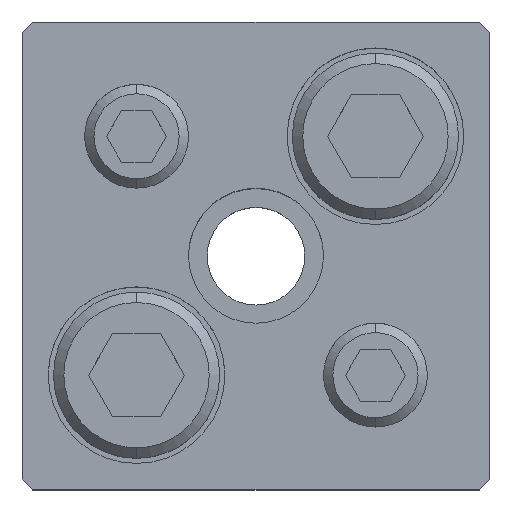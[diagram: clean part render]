
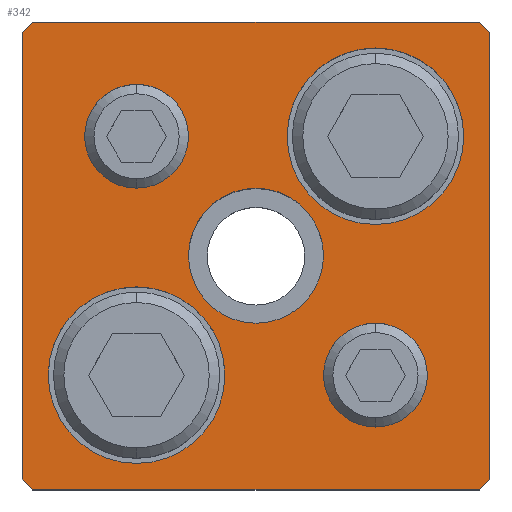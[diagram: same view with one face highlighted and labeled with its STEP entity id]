
A CAD part, top view. The second image highlights one B-rep face of the part: STEP entity #342.
In plain terms, the highlighted planar face has unit normal (0, 0, 1).
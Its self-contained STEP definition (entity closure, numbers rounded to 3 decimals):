
#167=PLANE('',#2883);
#246=FACE_BOUND('',#713,.T.);
#247=FACE_BOUND('',#714,.T.);
#248=FACE_BOUND('',#715,.T.);
#249=FACE_BOUND('',#716,.T.);
#250=FACE_BOUND('',#717,.T.);
#251=FACE_BOUND('',#718,.T.);
#342=ADVANCED_FACE('',(#246,#247,#248,#249,#250,#251),#167,.T.);
#713=EDGE_LOOP('',(#1569,#1570,#1571,#1572,#1573,#1574,#1575,#1576));
#714=EDGE_LOOP('',(#1577,#1578));
#715=EDGE_LOOP('',(#1579,#1580));
#716=EDGE_LOOP('',(#1581,#1582));
#717=EDGE_LOOP('',(#1583,#1584));
#718=EDGE_LOOP('',(#1585,#1586));
#898=LINE('',#4227,#1118);
#899=LINE('',#4230,#1119);
#900=LINE('',#4232,#1120);
#901=LINE('',#4234,#1121);
#902=LINE('',#4236,#1122);
#903=LINE('',#4238,#1123);
#904=LINE('',#4240,#1124);
#905=LINE('',#4242,#1125);
#1118=VECTOR('',#3401,1.);
#1119=VECTOR('',#3402,1.);
#1120=VECTOR('',#3403,1.);
#1121=VECTOR('',#3404,1.);
#1122=VECTOR('',#3405,1.);
#1123=VECTOR('',#3406,1.);
#1124=VECTOR('',#3407,1.);
#1125=VECTOR('',#3408,1.);
#1569=ORIENTED_EDGE('',*,*,#2390,.T.);
#1570=ORIENTED_EDGE('',*,*,#2391,.T.);
#1571=ORIENTED_EDGE('',*,*,#2392,.T.);
#1572=ORIENTED_EDGE('',*,*,#2393,.T.);
#1573=ORIENTED_EDGE('',*,*,#2394,.T.);
#1574=ORIENTED_EDGE('',*,*,#2395,.T.);
#1575=ORIENTED_EDGE('',*,*,#2396,.T.);
#1576=ORIENTED_EDGE('',*,*,#2397,.T.);
#1577=ORIENTED_EDGE('',*,*,#2398,.F.);
#1578=ORIENTED_EDGE('',*,*,#2399,.F.);
#1579=ORIENTED_EDGE('',*,*,#2400,.F.);
#1580=ORIENTED_EDGE('',*,*,#2401,.F.);
#1581=ORIENTED_EDGE('',*,*,#2376,.F.);
#1582=ORIENTED_EDGE('',*,*,#2372,.F.);
#1583=ORIENTED_EDGE('',*,*,#2370,.F.);
#1584=ORIENTED_EDGE('',*,*,#2366,.F.);
#1585=ORIENTED_EDGE('',*,*,#2402,.T.);
#1586=ORIENTED_EDGE('',*,*,#2403,.T.);
#2083=VERTEX_POINT('',#4178);
#2084=VERTEX_POINT('',#4179);
#2087=VERTEX_POINT('',#4191);
#2088=VERTEX_POINT('',#4192);
#2099=VERTEX_POINT('',#4228);
#2100=VERTEX_POINT('',#4229);
#2101=VERTEX_POINT('',#4231);
#2102=VERTEX_POINT('',#4233);
#2103=VERTEX_POINT('',#4235);
#2104=VERTEX_POINT('',#4237);
#2105=VERTEX_POINT('',#4239);
#2106=VERTEX_POINT('',#4241);
#2107=VERTEX_POINT('',#4244);
#2108=VERTEX_POINT('',#4245);
#2109=VERTEX_POINT('',#4248);
#2110=VERTEX_POINT('',#4249);
#2111=VERTEX_POINT('',#4252);
#2112=VERTEX_POINT('',#4253);
#2366=EDGE_CURVE('',#2083,#2084,#2655,.T.);
#2370=EDGE_CURVE('',#2084,#2083,#2657,.T.);
#2372=EDGE_CURVE('',#2087,#2088,#2659,.T.);
#2376=EDGE_CURVE('',#2088,#2087,#2661,.T.);
#2390=EDGE_CURVE('',#2099,#2100,#898,.T.);
#2391=EDGE_CURVE('',#2100,#2101,#899,.T.);
#2392=EDGE_CURVE('',#2101,#2102,#900,.T.);
#2393=EDGE_CURVE('',#2102,#2103,#901,.T.);
#2394=EDGE_CURVE('',#2103,#2104,#902,.T.);
#2395=EDGE_CURVE('',#2104,#2105,#903,.T.);
#2396=EDGE_CURVE('',#2105,#2106,#904,.T.);
#2397=EDGE_CURVE('',#2106,#2099,#905,.T.);
#2398=EDGE_CURVE('',#2107,#2108,#2671,.T.);
#2399=EDGE_CURVE('',#2108,#2107,#2672,.T.);
#2400=EDGE_CURVE('',#2109,#2110,#2673,.T.);
#2401=EDGE_CURVE('',#2110,#2109,#2674,.T.);
#2402=EDGE_CURVE('',#2111,#2112,#2675,.T.);
#2403=EDGE_CURVE('',#2112,#2111,#2676,.T.);
#2655=CIRCLE('',#2851,5.);
#2657=CIRCLE('',#2854,5.);
#2659=CIRCLE('',#2858,5.);
#2661=CIRCLE('',#2861,5.);
#2671=CIRCLE('',#2877,8.5);
#2672=CIRCLE('',#2878,8.5);
#2673=CIRCLE('',#2879,8.5);
#2674=CIRCLE('',#2880,8.5);
#2675=CIRCLE('',#2881,6.5);
#2676=CIRCLE('',#2882,6.5);
#2851=AXIS2_PLACEMENT_3D('',#4177,#3341,#3342);
#2854=AXIS2_PLACEMENT_3D('',#4186,#3349,#3350);
#2858=AXIS2_PLACEMENT_3D('',#4190,#3357,#3358);
#2861=AXIS2_PLACEMENT_3D('',#4199,#3365,#3366);
#2877=AXIS2_PLACEMENT_3D('',#4243,#3409,#3410);
#2878=AXIS2_PLACEMENT_3D('',#4246,#3411,#3412);
#2879=AXIS2_PLACEMENT_3D('',#4247,#3413,#3414);
#2880=AXIS2_PLACEMENT_3D('',#4250,#3415,#3416);
#2881=AXIS2_PLACEMENT_3D('',#4251,#3417,#3418);
#2882=AXIS2_PLACEMENT_3D('',#4254,#3419,#3420);
#2883=AXIS2_PLACEMENT_3D('',#4255,#3421,#3422);
#3341=DIRECTION('',(0.,0.,1.));
#3342=DIRECTION('',(-1.,0.,0.));
#3349=DIRECTION('',(0.,0.,1.));
#3350=DIRECTION('',(1.,0.,0.));
#3357=DIRECTION('',(0.,0.,1.));
#3358=DIRECTION('',(-1.,0.,0.));
#3365=DIRECTION('',(0.,0.,1.));
#3366=DIRECTION('',(1.,0.,0.));
#3401=DIRECTION('',(0.707,0.707,0.));
#3402=DIRECTION('',(0.,1.,0.));
#3403=DIRECTION('',(-0.707,0.707,0.));
#3404=DIRECTION('',(-1.,0.,0.));
#3405=DIRECTION('',(-0.707,-0.707,0.));
#3406=DIRECTION('',(0.,-1.,0.));
#3407=DIRECTION('',(0.707,-0.707,0.));
#3408=DIRECTION('',(1.,0.,0.));
#3409=DIRECTION('',(0.,0.,1.));
#3410=DIRECTION('',(1.,0.,0.));
#3411=DIRECTION('',(0.,0.,1.));
#3412=DIRECTION('',(-1.,0.,0.));
#3413=DIRECTION('',(0.,0.,1.));
#3414=DIRECTION('',(1.,0.,0.));
#3415=DIRECTION('',(0.,0.,1.));
#3416=DIRECTION('',(-1.,0.,0.));
#3417=DIRECTION('',(0.,0.,-1.));
#3418=DIRECTION('',(-1.,0.,0.));
#3419=DIRECTION('',(0.,0.,-1.));
#3420=DIRECTION('',(1.,0.,0.));
#3421=DIRECTION('',(0.,0.,1.));
#3422=DIRECTION('',(-1.,0.,0.));
#4177=CARTESIAN_POINT('',(11.5,-11.5,35.));
#4178=CARTESIAN_POINT('',(11.5,-16.5,35.));
#4179=CARTESIAN_POINT('',(11.5,-6.5,35.));
#4186=CARTESIAN_POINT('',(11.5,-11.5,35.));
#4190=CARTESIAN_POINT('',(-11.5,11.5,35.));
#4191=CARTESIAN_POINT('',(-11.5,6.5,35.));
#4192=CARTESIAN_POINT('',(-11.5,16.5,35.));
#4199=CARTESIAN_POINT('',(-11.5,11.5,35.));
#4227=CARTESIAN_POINT('',(21.5,-22.5,35.));
#4228=CARTESIAN_POINT('',(21.5,-22.5,35.));
#4229=CARTESIAN_POINT('',(22.5,-21.5,35.));
#4230=CARTESIAN_POINT('',(22.5,21.5,35.));
#4231=CARTESIAN_POINT('',(22.5,21.5,35.));
#4232=CARTESIAN_POINT('',(22.5,21.5,35.));
#4233=CARTESIAN_POINT('',(21.5,22.5,35.));
#4234=CARTESIAN_POINT('',(-21.5,22.5,35.));
#4235=CARTESIAN_POINT('',(-21.5,22.5,35.));
#4236=CARTESIAN_POINT('',(-21.5,22.5,35.));
#4237=CARTESIAN_POINT('',(-22.5,21.5,35.));
#4238=CARTESIAN_POINT('',(-22.5,21.5,35.));
#4239=CARTESIAN_POINT('',(-22.5,-21.5,35.));
#4240=CARTESIAN_POINT('',(-22.5,-21.5,35.));
#4241=CARTESIAN_POINT('',(-21.5,-22.5,35.));
#4242=CARTESIAN_POINT('',(-21.5,-22.5,35.));
#4243=CARTESIAN_POINT('',(11.5,11.5,35.));
#4244=CARTESIAN_POINT('',(11.5,20.,35.));
#4245=CARTESIAN_POINT('',(11.5,3.,35.));
#4246=CARTESIAN_POINT('',(11.5,11.5,35.));
#4247=CARTESIAN_POINT('',(-11.5,-11.5,35.));
#4248=CARTESIAN_POINT('',(-11.5,-3.,35.));
#4249=CARTESIAN_POINT('',(-11.5,-20.,35.));
#4250=CARTESIAN_POINT('',(-11.5,-11.5,35.));
#4251=CARTESIAN_POINT('',(0.,0.,35.));
#4252=CARTESIAN_POINT('',(0.,6.5,35.));
#4253=CARTESIAN_POINT('',(0.,-6.5,35.));
#4254=CARTESIAN_POINT('',(0.,0.,35.));
#4255=CARTESIAN_POINT('',(21.5,-22.5,35.));
